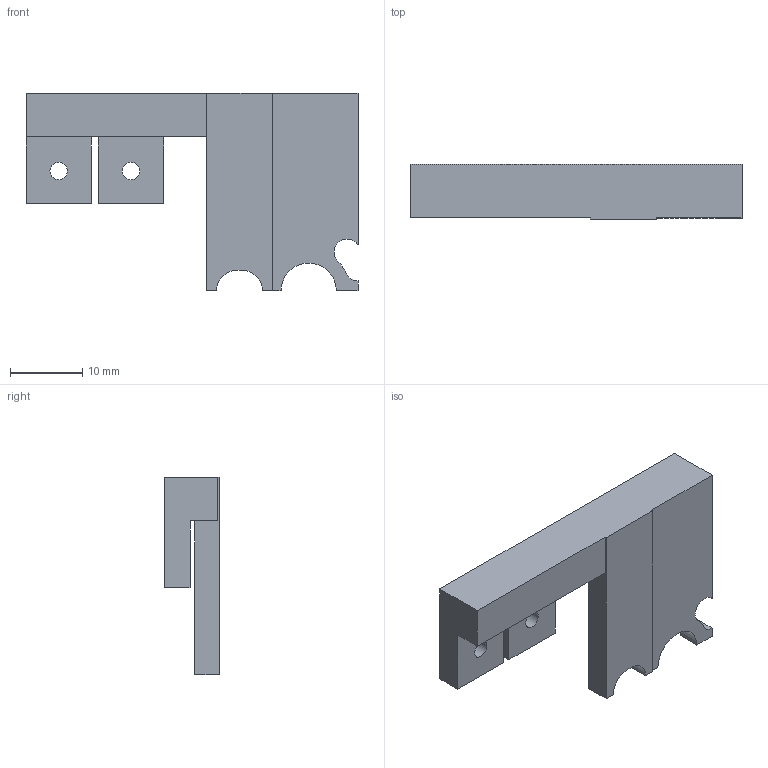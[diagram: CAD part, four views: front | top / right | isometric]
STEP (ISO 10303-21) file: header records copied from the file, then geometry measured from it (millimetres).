
FILE_DESCRIPTION(('Open CASCADE Model'),'2;1');
FILE_NAME('P18-P18_root_cap.step', '', ('Noah Wilson'), (''), '', '', '');
FILE_SCHEMA(('AUTOMOTIVE_DESIGN { 1 0 10303 214 1 1 1 1 }'));
Length unit declared in the file: millimetre
Products named in the file (1): COMPOUND
Bounding box: 45.8 x 7.55 x 27.2 mm (x, y, z)
Volume: 3835.8 mm3; surface area: 2788.8 mm2
Topology: 1 solids, 1 shells, 38 faces, 102 edges, 68 vertices
Faces by surface type: plane 27, cylinder 11
Full cylindrical faces by diameter (mm): 2.4 x2, 4.1 x2
Entity records: 2547 total; most frequent: CARTESIAN_POINT 542, DIRECTION 357, LINE 229, VECTOR 229, ORIENTED_EDGE 204, PCURVE 204, DEFINITIONAL_REPRESENTATION 204, EDGE_CURVE 102
